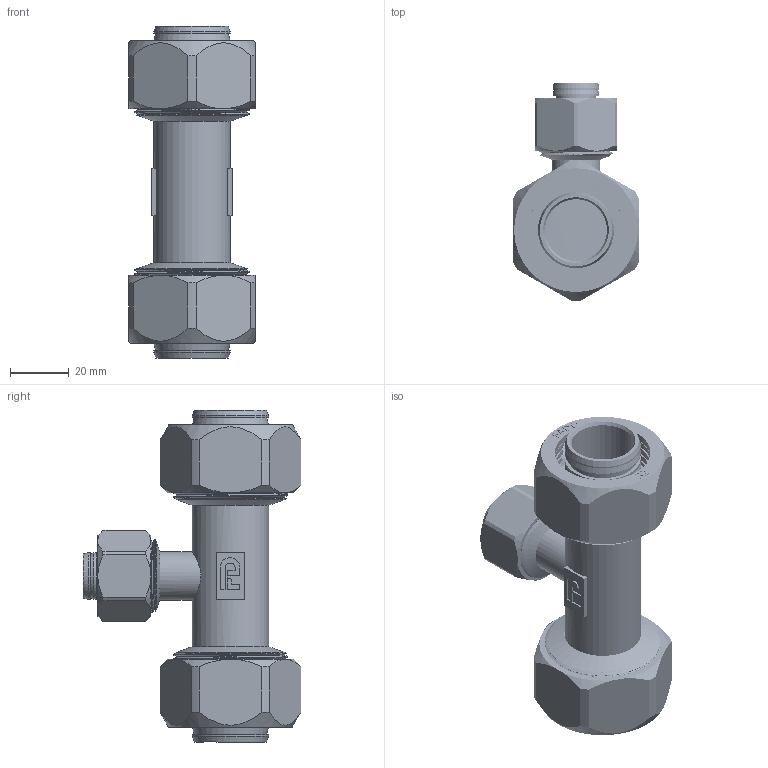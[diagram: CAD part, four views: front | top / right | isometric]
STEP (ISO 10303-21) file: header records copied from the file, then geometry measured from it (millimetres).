
FILE_DESCRIPTION(/* description */ (''),/* implementation_level */ '2;1');
FILE_NAME(/* name */ 'C:\Users\Doom\Desktop\Фадотех\Обжим\RFT10 32x20x32 20.04.2020\RFT10 32x20x32 20.04.2020_2D.stp',/* time_stamp */ '2022-06-01T12:38:27+03:00',/* author */ ('Doom'),/* organization */ (''),/* preprocessor_version */ 'ST-DEVELOPER v18',/* originating_system */ 'Autodesk Inventor 2020',/* authorisation */ '');
FILE_SCHEMA (('AUTOMOTIVE_DESIGN { 1 0 10303 214 3 1 1 }'));
Length unit declared in the file: millimetre
Products named in the file (8): RFT10 32x20x32 20.04.2020_2D; RFT10 32x20x32 20.04.2020; FADO MC Nut-20 15.02.2020; FADO MC Nut-32 15.02.2020; FADO MC Socket-20 15.02.2020; FADO MC Socket-32 15.02.2020; Olive 20 15.02.2020; Olive 20 15.02.2020_1
Assembly tree (10 placements, depth 2):
  RFT10 32x20x32 20.04.2020_2D
    RFT10 32x20x32 20.04.2020
    FADO MC Nut-20 15.02.2020
    FADO MC Nut-32 15.02.2020  x2
    FADO MC Socket-20 15.02.2020
    FADO MC Socket-32 15.02.2020  x2
    Olive 20 15.02.2020
    Olive 20 15.02.2020_1  x2
Bounding box: 42.8 x 73.9 x 112.6 mm (x, y, z)
Volume: 74765.2 mm3; surface area: 86716.8 mm2
Topology: 16 solids, 16 shells, 1567 faces, 4330 edges, 2917 vertices
Faces by surface type: bspline 792, plane 453, cylinder 243, cone 71, torus 8
Full cylindrical faces by diameter (mm): 11.5 x2, 13.531 x2, 14.5 x1, 15.802 x5, 16.5 x1, 17.391 x1, 17.5 x1, 20 x1, 20.5 x1, 21 x3, 22.776 x10, 23 x1, 23.6 x4, 24.1 x1, 25 x9, 25.8 x10, 26 x4, 29.995 x2, 30 x4, 32.5 x2, 36.5 x2, 36.776 x4, 37.517 x34, 38.2 x2, 39 x21
Entity records: 69337 total; most frequent: CARTESIAN_POINT 45009, ORIENTED_EDGE 5940, DIRECTION 3368, EDGE_CURVE 2970, VERTEX_POINT 2000, B_SPLINE_CURVE_WITH_KNOTS 1216, EDGE_LOOP 1188, LINE 1172
